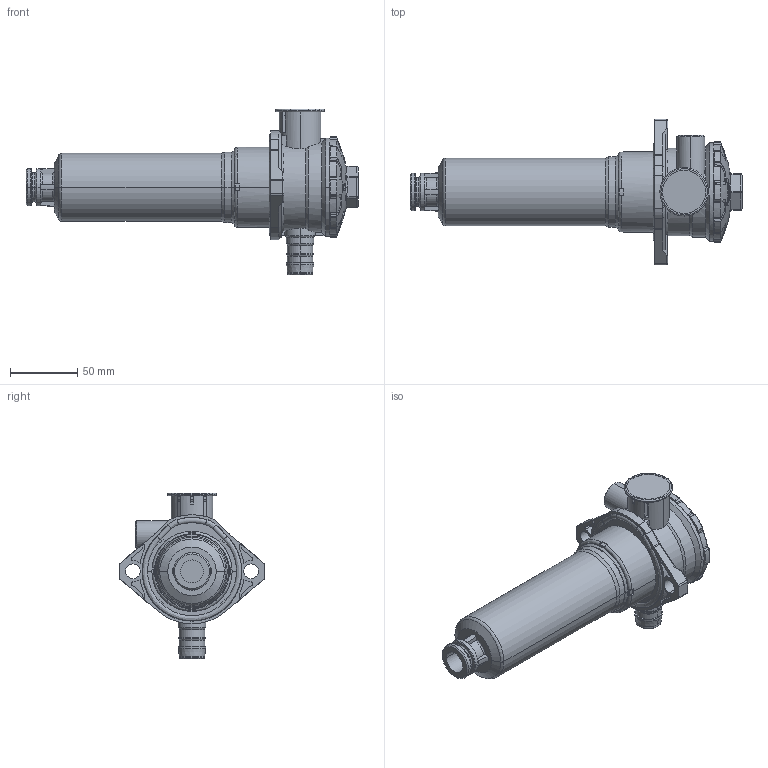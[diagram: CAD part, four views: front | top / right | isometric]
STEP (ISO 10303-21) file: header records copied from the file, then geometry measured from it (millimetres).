
FILE_DESCRIPTION((''),'2;1');
FILE_NAME('11382500_234024','2024-03-11T',('g.topp'),(''),'PRO/ENGINEER BY PARAMETRIC TECHNOLOGY CORPORATION, 2015110','PRO/ENGINEER BY PARAMETRIC TECHNOLOGY CORPORATION, 2015110','');
FILE_SCHEMA(('AUTOMOTIVE_DESIGN { 1 0 10303 214 1 1 1 1 }'));
Length unit declared in the file: millimetre
Products named in the file (1): 11382500_234024
Bounding box: 246.7 x 108 x 123 mm (x, y, z)
Volume: 582314.5 mm3; surface area: 81193.3 mm2
Topology: 1 solids, 6 shells, 1063 faces, 2754 edges, 1731 vertices
Faces by surface type: plane 404, bspline 246, cylinder 196, cone 96, torus 96, extrusion 15, sphere 10
Entity records: 52386 total; most frequent: CARTESIAN_POINT 20611, ORIENTED_EDGE 5488, DIRECTION 3763, PRESENTATION_STYLE_ASSIGNMENT 2745, STYLED_ITEM 2745, CURVE_STYLE 2744, EDGE_CURVE 2744, VERTEX_POINT 1731
